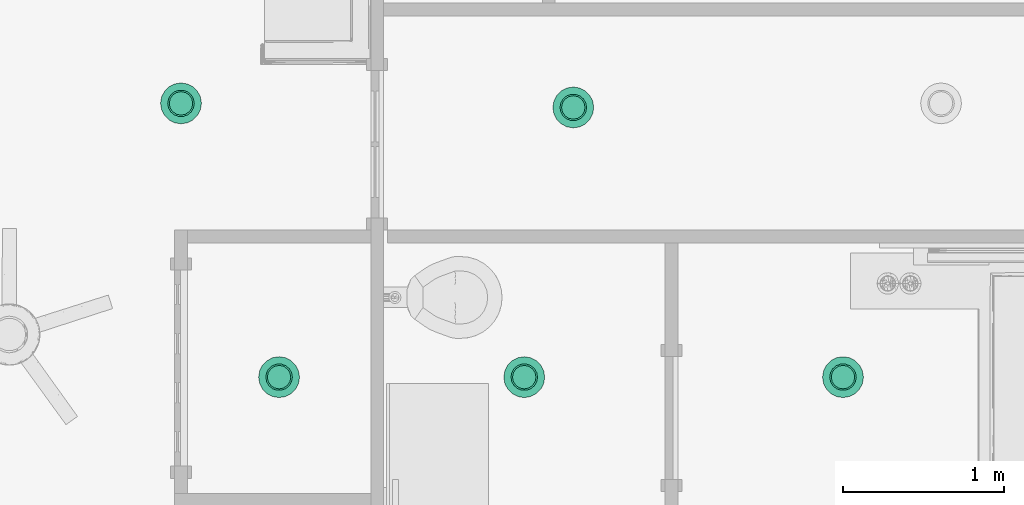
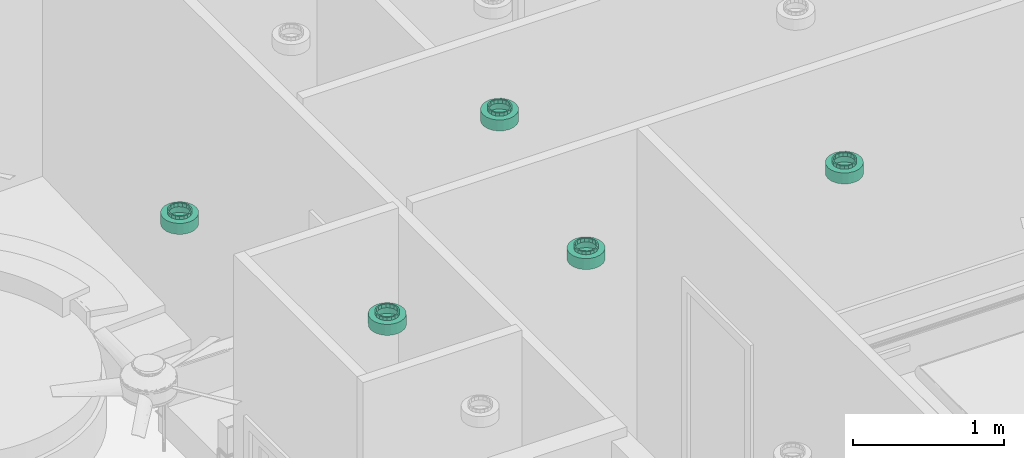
# One storey, part 13 of 28: 5 flow terminals.
"""IFC2X3 building model written with IfcOpenShell, lengths in feet."""

from ifc_helpers import new_model, entity, si_unit, converted_unit, derived_unit, direction, frame, origin, place, context, subcontext, project, spatial, faceted_brep, source, transform, mapped, material, material_list, type_object, type_shapes, element, save


model = new_model("IFC2X3")

# Units and contexts
model_context = context("Model", 3, precision=0.0001, world=origin(), true_north=direction((6.12303176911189e-17, 1.0)))
body_context = subcontext(model_context, "Body", "Model", "MODEL_VIEW")
ifc_project = project(units=[converted_unit("LENGTHUNIT", "FOOT", entity("IfcRatioMeasure", 0.3048), si_unit("LENGTHUNIT", "METRE"), dimensions=[1, 0, 0, 0, 0, 0, 0]), converted_unit("AREAUNIT", "SQUARE FOOT", entity("IfcRatioMeasure", 0.09290304), si_unit("AREAUNIT", "SQUARE_METRE"), dimensions=[2, 0, 0, 0, 0, 0, 0]), converted_unit("VOLUMEUNIT", "CUBIC FOOT", entity("IfcRatioMeasure", 0.028316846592), si_unit("VOLUMEUNIT", "CUBIC_METRE"), dimensions=[3, 0, 0, 0, 0, 0, 0]), converted_unit("PLANEANGLEUNIT", "DEGREE", entity("IfcRatioMeasure", 0.0174532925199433), si_unit("PLANEANGLEUNIT", "RADIAN"), dimensions=[0, 0, 0, 0, 0, 0, 0]), si_unit("MASSUNIT", "GRAM", prefix="KILO"), derived_unit("MASSDENSITYUNIT", [(si_unit("MASSUNIT", "GRAM", prefix="KILO"), 1), (si_unit("LENGTHUNIT", "METRE"), -3)]), si_unit("TIMEUNIT", "SECOND"), si_unit("FREQUENCYUNIT", "HERTZ"), si_unit("THERMODYNAMICTEMPERATUREUNIT", "DEGREE_CELSIUS"), derived_unit("THERMALTRANSMITTANCEUNIT", [(si_unit("MASSUNIT", "GRAM", prefix="KILO"), 1), (si_unit("THERMODYNAMICTEMPERATUREUNIT", "KELVIN"), -1), (si_unit("TIMEUNIT", "SECOND"), -3)]), derived_unit("VOLUMETRICFLOWRATEUNIT", [(si_unit("LENGTHUNIT", "METRE"), 3), (si_unit("TIMEUNIT", "SECOND"), -1)]), si_unit("ELECTRICCURRENTUNIT", "AMPERE"), si_unit("ELECTRICVOLTAGEUNIT", "VOLT"), si_unit("POWERUNIT", "WATT"), si_unit("FORCEUNIT", "NEWTON"), si_unit("ILLUMINANCEUNIT", "LUX"), si_unit("LUMINOUSFLUXUNIT", "LUMEN"), si_unit("LUMINOUSINTENSITYUNIT", "CANDELA"), derived_unit("USERDEFINED", [(si_unit("MASSUNIT", "GRAM", prefix="KILO"), -1), (si_unit("LENGTHUNIT", "METRE"), -2), (si_unit("TIMEUNIT", "SECOND"), 3), (si_unit("LUMINOUSFLUXUNIT", "LUMEN"), 1)]), derived_unit("LINEARVELOCITYUNIT", [(si_unit("LENGTHUNIT", "METRE"), 1), (si_unit("TIMEUNIT", "SECOND"), -1)]), si_unit("PRESSUREUNIT", "PASCAL"), derived_unit("USERDEFINED", [(si_unit("LENGTHUNIT", "METRE"), -2), (si_unit("MASSUNIT", "GRAM", prefix="KILO"), 1), (si_unit("TIMEUNIT", "SECOND"), -2)])], contexts=[model_context])

# Site, building, storey
site_placement = place(None, origin())
site = spatial("IfcSite", under=ifc_project, at=site_placement, Name="表面", CompositionType="ELEMENT")
building_placement = place(site_placement, origin())
building = spatial("IfcBuilding", under=site, at=building_placement, CompositionType="ELEMENT")
storey_placement = place(building_placement, frame((0.0, 0.0, 10.0)))
storey = spatial("IfcBuildingStorey", under=building, at=storey_placement, Name="Level 2", CompositionType="ELEMENT", Elevation=9.99999999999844)

# Flow terminals
ifc_material_1 = material(Name="Metal - Paint Finish - Dark Gray, Matte")
ifc_material_2 = material(Name="Glass - White, High Luminance")
ifc_material_list_1 = material_list([ifc_material_1, ifc_material_2])
ifc_material_list_2 = material_list([ifc_material_1, ifc_material_2])
light_fixture_type = type_object("IfcLightFixtureType", Name="100W - 277V", PredefinedType="NOTDEFINED", material=ifc_material_list_2)
shared_shape = source(origin(), body_context, "Body", "Brep", [
    faceted_brep([(0.557291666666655, 0.187326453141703, 0.374999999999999), (0.598651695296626, 0.245098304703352, 0.374999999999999), (0.558098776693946, 0.218001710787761, 0.374999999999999), (0.629345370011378, 0.247786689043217, 0.374999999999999), (0.517545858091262, 0.190905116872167, 0.374999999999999), (0.468904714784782, 0.155156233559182, 0.374999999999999), (0.625748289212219, 0.285651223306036, 0.374999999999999), (0.65284488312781, 0.326204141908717, 0.374999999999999), (0.676375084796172, 0.329244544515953, 0.374999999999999), (0.6623599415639, 0.374039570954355, 0.374999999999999), (0.671874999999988, 0.42187499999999, 0.374999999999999), (0.692708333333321, 0.421874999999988, 0.374999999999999), (0.676375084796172, 0.514505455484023, 0.374999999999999), (0.662359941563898, 0.469710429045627, 0.374999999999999), (0.652844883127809, 0.517545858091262, 0.374999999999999), (0.629345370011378, 0.595963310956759, 0.374999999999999), (0.625748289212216, 0.558098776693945, 0.374999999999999), (0.598651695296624, 0.598651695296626, 0.374999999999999), (0.557291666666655, 0.656423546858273, 0.374999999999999), (0.55809877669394, 0.625748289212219, 0.374999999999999), (0.517545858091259, 0.65284488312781, 0.374999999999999), (0.468904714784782, 0.688593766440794, 0.374999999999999), (0.469710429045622, 0.662359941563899, 0.374999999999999), (0.421874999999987, 0.671874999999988, 0.374999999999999), (0.374845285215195, 0.688593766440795, 0.374999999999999), (0.374039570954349, 0.662359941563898, 0.374999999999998), (0.326204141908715, 0.652844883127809, 0.374999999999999), (0.286458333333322, 0.656423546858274, 0.374999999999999), (0.285651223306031, 0.625748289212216, 0.374999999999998), (0.245098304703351, 0.598651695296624, 0.374999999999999), (0.214404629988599, 0.59596331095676, 0.374999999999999), (0.218001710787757, 0.558098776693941, 0.374999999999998), (0.190905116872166, 0.51754585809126, 0.374999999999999), (0.167374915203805, 0.514505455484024, 0.374999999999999), (0.181390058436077, 0.469710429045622, 0.374999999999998), (0.171874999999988, 0.421874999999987, 0.374999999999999), (0.151041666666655, 0.421874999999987, 0.374999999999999), (0.167374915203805, 0.329244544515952, 0.374999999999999), (0.181390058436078, 0.374039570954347, 0.374999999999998), (0.190905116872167, 0.326204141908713, 0.374999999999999), (0.214404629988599, 0.247786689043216, 0.374999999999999), (0.218001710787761, 0.28565122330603, 0.374999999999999), (0.245098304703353, 0.245098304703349, 0.374999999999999), (0.286458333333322, 0.187326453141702, 0.374999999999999), (0.285651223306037, 0.218001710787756, 0.374999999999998), (0.326204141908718, 0.190905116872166, 0.374999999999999), (0.374845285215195, 0.155156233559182, 0.374999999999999), (0.42187499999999, 0.171874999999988, 0.374999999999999), (0.374039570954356, 0.181390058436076, 0.374999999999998), (0.469710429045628, 0.181390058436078, 0.374999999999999), (0.557291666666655, 0.656423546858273, 0.291666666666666), (0.598651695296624, 0.598651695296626, 0.291666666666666), (0.55809877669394, 0.625748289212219, 0.291666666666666), (0.629345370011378, 0.595963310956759, 0.291666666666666), (0.517545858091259, 0.65284488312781, 0.291666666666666), (0.468904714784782, 0.688593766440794, 0.291666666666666), (0.625748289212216, 0.558098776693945, 0.291666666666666), (0.652844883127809, 0.517545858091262, 0.291666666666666), (0.676375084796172, 0.514505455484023, 0.291666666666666), (0.662359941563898, 0.469710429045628, 0.291666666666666), (0.671874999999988, 0.42187499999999, 0.291666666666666), (0.692708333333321, 0.421874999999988, 0.291666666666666), (0.676375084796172, 0.329244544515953, 0.291666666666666), (0.659760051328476, 0.36096904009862, 0.291666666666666), (0.65284488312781, 0.326204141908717, 0.291666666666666), (0.629345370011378, 0.247786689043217, 0.291666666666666), (0.625748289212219, 0.285651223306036, 0.291666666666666), (0.598651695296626, 0.245098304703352, 0.291666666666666), (0.557291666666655, 0.187326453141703, 0.291666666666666), (0.558098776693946, 0.218001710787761, 0.291666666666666), (0.517545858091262, 0.190905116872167, 0.291666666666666), (0.468904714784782, 0.155156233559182, 0.291666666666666), (0.469710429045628, 0.181390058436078, 0.291666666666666), (0.42187499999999, 0.171874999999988, 0.291666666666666), (0.374845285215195, 0.155156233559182, 0.291666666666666), (0.374039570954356, 0.181390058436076, 0.291666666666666), (0.326204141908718, 0.190905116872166, 0.291666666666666), (0.286458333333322, 0.187326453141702, 0.291666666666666), (0.285651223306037, 0.218001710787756, 0.291666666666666), (0.245098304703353, 0.245098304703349, 0.291666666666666), (0.214404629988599, 0.247786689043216, 0.291666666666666), (0.218001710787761, 0.28565122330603, 0.291666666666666), (0.190905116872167, 0.326204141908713, 0.291666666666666), (0.167374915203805, 0.329244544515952, 0.291666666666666), (0.181390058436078, 0.374039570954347, 0.291666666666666), (0.171874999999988, 0.421874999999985, 0.291666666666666), (0.151041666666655, 0.421874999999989, 0.291666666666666), (0.167374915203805, 0.514505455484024, 0.291666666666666), (0.183989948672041, 0.482780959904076, 0.291666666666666), (0.190905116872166, 0.51754585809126, 0.291666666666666), (0.214404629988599, 0.59596331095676, 0.291666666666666), (0.218001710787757, 0.558098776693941, 0.291666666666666), (0.245098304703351, 0.598651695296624, 0.291666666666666), (0.286458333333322, 0.656423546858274, 0.291666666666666), (0.285651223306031, 0.625748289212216, 0.291666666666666), (0.326204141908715, 0.652844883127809, 0.291666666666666), (0.374845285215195, 0.688593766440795, 0.291666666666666), (0.421874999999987, 0.671874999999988, 0.291666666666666), (0.374039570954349, 0.662359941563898, 0.291666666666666), (0.469710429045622, 0.662359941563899, 0.291666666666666)], [[[0, 1, 2]], [[1, 0, 3]], [[0, 2, 4]], [[4, 5, 0]], [[3, 6, 1]], [[3, 7, 6]], [[7, 3, 8]], [[8, 9, 7]], [[8, 10, 9]], [[10, 8, 11]], [[10, 11, 12]], [[12, 13, 10]], [[12, 14, 13]], [[15, 14, 12]], [[15, 16, 14]], [[15, 17, 16]], [[18, 17, 15]], [[18, 19, 17]], [[18, 20, 19]], [[21, 20, 18]], [[21, 22, 20]], [[21, 23, 22]], [[24, 23, 21]], [[24, 25, 23]], [[24, 26, 25]], [[27, 26, 24]], [[27, 28, 26]], [[27, 29, 28]], [[29, 27, 30]], [[30, 31, 29]], [[30, 32, 31]], [[32, 30, 33]], [[33, 34, 32]], [[33, 35, 34]], [[36, 35, 33]], [[37, 35, 36]], [[37, 38, 35]], [[37, 39, 38]], [[39, 37, 40]], [[40, 41, 39]], [[40, 42, 41]], [[42, 40, 43]], [[43, 44, 42]], [[43, 45, 44]], [[45, 43, 46]], [[47, 46, 5]], [[46, 47, 48]], [[46, 48, 45]], [[5, 4, 49]], [[5, 49, 47]], [[50, 51, 52]], [[51, 50, 53]], [[50, 52, 54]], [[54, 55, 50]], [[53, 56, 51]], [[53, 57, 56]], [[57, 53, 58]], [[58, 59, 57]], [[58, 60, 59]], [[60, 58, 61]], [[60, 61, 62]], [[62, 63, 60]], [[62, 64, 63]], [[65, 64, 62]], [[65, 66, 64]], [[65, 67, 66]], [[68, 67, 65]], [[68, 69, 67]], [[68, 70, 69]], [[71, 70, 68]], [[71, 72, 70]], [[71, 73, 72]], [[74, 73, 71]], [[74, 75, 73]], [[74, 76, 75]], [[77, 76, 74]], [[77, 78, 76]], [[77, 79, 78]], [[79, 77, 80]], [[80, 81, 79]], [[80, 82, 81]], [[82, 80, 83]], [[83, 84, 82]], [[83, 85, 84]], [[86, 85, 83]], [[87, 85, 86]], [[87, 88, 85]], [[87, 89, 88]], [[89, 87, 90]], [[90, 91, 89]], [[90, 92, 91]], [[92, 90, 93]], [[93, 94, 92]], [[93, 95, 94]], [[95, 93, 96]], [[97, 96, 55]], [[96, 97, 98]], [[96, 98, 95]], [[55, 54, 99]], [[55, 99, 97]], [[37, 36, 86, 83]], [[43, 40, 80, 77]], [[83, 80, 40, 37]], [[77, 74, 46, 43]], [[74, 71, 5, 46]], [[0, 5, 71, 68]], [[8, 3, 65, 62]], [[68, 65, 3, 0]], [[62, 61, 11, 8]], [[12, 11, 61, 58]], [[18, 15, 53, 50]], [[58, 53, 15, 12]], [[50, 55, 21, 18]], [[55, 96, 24, 21]], [[27, 24, 96, 93]], [[87, 33, 30, 90]], [[90, 30, 27, 93]], [[33, 87, 86, 36]], [[34, 35, 85, 88, 89, 32]], [[89, 91, 92, 29, 31, 32]], [[59, 60, 10, 13, 14, 57]], [[92, 94, 95, 26, 28, 29]], [[23, 25, 26, 95, 98, 97]], [[97, 99, 54, 20, 22, 23]], [[16, 17, 51, 56, 57, 14]], [[54, 52, 51, 17, 19, 20]], [[9, 10, 60, 63, 64, 7]], [[64, 66, 67, 1, 6, 7]], [[84, 85, 35, 38, 39, 82]], [[67, 69, 70, 4, 2, 1]], [[47, 49, 4, 70, 72, 73]], [[73, 75, 76, 45, 48, 47]], [[41, 42, 79, 81, 82, 39]], [[76, 78, 79, 42, 44, 45]]]),
    faceted_brep([(0.671874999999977, 0.421874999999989, 0.291666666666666), (0.838541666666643, 0.421874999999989, 0.291666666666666), (0.81814854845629, 0.550632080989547, 0.291666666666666), (0.818148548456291, 0.293117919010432, 0.291666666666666), (0.659760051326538, 0.360969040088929, 0.291666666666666), (0.662359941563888, 0.469710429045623, 0.291666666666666), (0.6528448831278, 0.326204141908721, 0.291666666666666), (0.758965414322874, 0.176964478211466, 0.291666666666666), (0.625748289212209, 0.28565122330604, 0.291666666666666), (0.598651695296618, 0.24509830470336, 0.291666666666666), (0.666785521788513, 0.084784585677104, 0.291666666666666), (0.558098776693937, 0.218001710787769, 0.291666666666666), (0.517545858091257, 0.190905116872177, 0.291666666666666), (0.550632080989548, 0.025601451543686, 0.291666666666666), (0.469710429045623, 0.181390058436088, 0.291666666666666), (0.421874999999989, 0.171874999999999, 0.291666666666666), (0.42187499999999, 0.00520833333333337, 0.291666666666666), (0.293117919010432, 0.0256014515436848, 0.291666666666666), (0.374039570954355, 0.181390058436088, 0.291666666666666), (0.326204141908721, 0.190905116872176, 0.291666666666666), (0.176964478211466, 0.0847845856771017, 0.291666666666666), (0.285651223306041, 0.218001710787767, 0.291666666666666), (0.24509830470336, 0.245098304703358, 0.291666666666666), (0.0847845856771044, 0.176964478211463, 0.291666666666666), (0.218001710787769, 0.285651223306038, 0.291666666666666), (0.190905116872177, 0.326204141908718, 0.291666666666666), (0.0256014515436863, 0.293117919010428, 0.291666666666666), (0.181390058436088, 0.374039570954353, 0.291666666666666), (0.171874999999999, 0.421874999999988, 0.291666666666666), (0.00520833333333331, 0.421874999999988, 0.291666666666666), (0.0256014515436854, 0.550632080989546, 0.291666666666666), (0.183989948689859, 0.482780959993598, 0.291666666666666), (0.190905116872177, 0.517545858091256, 0.291666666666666), (0.0847845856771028, 0.666785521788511, 0.291666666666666), (0.218001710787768, 0.558098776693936, 0.291666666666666), (0.245098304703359, 0.598651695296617, 0.291666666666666), (0.176964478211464, 0.758965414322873, 0.291666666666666), (0.285651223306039, 0.625748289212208, 0.291666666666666), (0.32620414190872, 0.652844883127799, 0.291666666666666), (0.29311791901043, 0.81814854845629, 0.291666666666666), (0.374039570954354, 0.662359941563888, 0.291666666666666), (0.421874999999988, 0.671874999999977, 0.291666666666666), (0.421874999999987, 0.838541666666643, 0.291666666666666), (0.550632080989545, 0.818148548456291, 0.291666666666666), (0.469710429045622, 0.662359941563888, 0.291666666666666), (0.517545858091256, 0.6528448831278, 0.291666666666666), (0.666785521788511, 0.758965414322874, 0.291666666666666), (0.558098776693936, 0.625748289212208, 0.291666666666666), (0.598651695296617, 0.598651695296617, 0.291666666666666), (0.758965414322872, 0.666785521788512, 0.291666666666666), (0.625748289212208, 0.558098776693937, 0.291666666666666), (0.652844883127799, 0.517545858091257, 0.291666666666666), (0.0256014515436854, 0.550632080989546, 0.0), (0.00520833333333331, 0.421874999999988, 0.0), (0.0847845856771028, 0.666785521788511, 0.0), (0.176964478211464, 0.758965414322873, 0.0), (0.29311791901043, 0.818148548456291, 0.0), (0.421874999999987, 0.838541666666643, 0.0), (0.550632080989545, 0.818148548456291, 0.0), (0.666785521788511, 0.758965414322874, 0.0), (0.758965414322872, 0.666785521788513, 0.0), (0.81814854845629, 0.550632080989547, 0.0), (0.838541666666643, 0.42187499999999, 0.0), (0.818148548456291, 0.293117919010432, 0.0), (0.666785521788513, 0.0847845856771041, 0.0), (0.550632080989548, 0.025601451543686, 0.0), (0.42187499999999, 0.00520833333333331, 0.0), (0.758965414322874, 0.176964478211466, 0.0), (0.293117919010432, 0.0256014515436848, 0.0), (0.176964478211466, 0.0847845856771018, 0.0), (0.0847845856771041, 0.176964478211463, 0.0), (0.025601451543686, 0.293117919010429, 0.0), (0.421874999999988, 0.421874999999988, 0.0), (0.808241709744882, 0.547413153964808, 0.0104166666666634), (0.421874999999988, 0.421874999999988, 0.0104166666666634), (0.828124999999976, 0.421874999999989, 0.0104166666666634), (0.7505381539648, 0.660662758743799, 0.0104166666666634), (0.660662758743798, 0.750538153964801, 0.0104166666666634), (0.547413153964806, 0.808241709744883, 0.0104166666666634), (0.421874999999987, 0.828124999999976, 0.0104166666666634), (0.296336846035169, 0.808241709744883, 0.0104166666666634), (0.183087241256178, 0.750538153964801, 0.0104166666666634), (0.0932118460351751, 0.660662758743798, 0.0104166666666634), (0.0355082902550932, 0.547413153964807, 0.0104166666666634), (0.0156249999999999, 0.421874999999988, 0.0104166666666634), (0.0355082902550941, 0.296336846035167, 0.0104166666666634), (0.0932118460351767, 0.183087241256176, 0.0104166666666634), (0.18308724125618, 0.093211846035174, 0.0104166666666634), (0.296336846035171, 0.0355082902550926, 0.0104166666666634), (0.42187499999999, 0.0156249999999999, 0.0104166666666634), (0.547413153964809, 0.0355082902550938, 0.0104166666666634), (0.6606627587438, 0.0932118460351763, 0.0104166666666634), (0.750538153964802, 0.183087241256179, 0.0104166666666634), (0.808241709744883, 0.296336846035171, 0.0104166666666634), (0.0355082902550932, 0.547413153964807, 0.281249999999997), (0.0156249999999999, 0.421874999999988, 0.281249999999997), (0.0932118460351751, 0.660662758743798, 0.281249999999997), (0.183087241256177, 0.750538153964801, 0.281249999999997), (0.296336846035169, 0.808241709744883, 0.281249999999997), (0.421874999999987, 0.828124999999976, 0.281249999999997), (0.660662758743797, 0.750538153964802, 0.281249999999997), (0.547413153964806, 0.808241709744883, 0.281249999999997), (0.808241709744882, 0.547413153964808, 0.281249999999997), (0.7505381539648, 0.660662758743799, 0.281249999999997), (0.828124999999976, 0.42187499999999, 0.281249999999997), (0.808241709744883, 0.296336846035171, 0.281249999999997), (0.547413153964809, 0.0355082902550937, 0.281249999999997), (0.6606627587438, 0.0932118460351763, 0.281249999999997), (0.42187499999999, 0.0156249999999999, 0.281249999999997), (0.750538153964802, 0.183087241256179, 0.281249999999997), (0.183087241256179, 0.0932118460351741, 0.281249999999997), (0.296336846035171, 0.0355082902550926, 0.281249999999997), (0.0355082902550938, 0.296336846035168, 0.281249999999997), (0.0932118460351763, 0.183087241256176, 0.281249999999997), (0.66145833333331, 0.421874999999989, 0.281249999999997), (0.650878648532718, 0.475062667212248, 0.281249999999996), (0.643221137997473, 0.513559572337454, 0.281249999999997), (0.650878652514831, 0.368687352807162, 0.281249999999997), (0.643221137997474, 0.330190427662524, 0.281249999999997), (0.617253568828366, 0.291327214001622, 0.281249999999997), (0.591285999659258, 0.25246400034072, 0.281249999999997), (0.552422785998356, 0.226496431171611, 0.281249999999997), (0.513559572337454, 0.200528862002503, 0.281249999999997), (0.467717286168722, 0.191410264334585, 0.281249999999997), (0.421874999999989, 0.182291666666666, 0.281249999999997), (0.376032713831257, 0.191410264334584, 0.281249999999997), (0.330190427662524, 0.200528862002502, 0.281249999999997), (0.291327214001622, 0.22649643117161, 0.281249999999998), (0.25246400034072, 0.252464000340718, 0.281249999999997), (0.226496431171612, 0.29132721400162, 0.281249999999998), (0.200528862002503, 0.330190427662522, 0.281249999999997), (0.191410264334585, 0.376032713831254, 0.281249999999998), (0.182291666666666, 0.421874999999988, 0.281249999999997), (0.192871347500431, 0.47506264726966, 0.281249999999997), (0.200528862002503, 0.513559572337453, 0.281249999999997), (0.226496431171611, 0.552422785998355, 0.281249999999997), (0.252464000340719, 0.591285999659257, 0.281249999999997), (0.291327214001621, 0.617253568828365, 0.281249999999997), (0.330190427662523, 0.643221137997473, 0.281249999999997), (0.376032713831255, 0.652339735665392, 0.281249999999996), (0.421874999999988, 0.66145833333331, 0.281249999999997), (0.46771728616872, 0.652339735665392, 0.281249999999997), (0.513559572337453, 0.643221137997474, 0.281249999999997), (0.591285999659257, 0.591285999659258, 0.281249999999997), (0.552422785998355, 0.617253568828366, 0.281249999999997), (0.617253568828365, 0.552422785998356, 0.281249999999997), (0.191410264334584, 0.467717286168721, 0.375), (0.182291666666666, 0.421874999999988, 0.375), (0.200528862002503, 0.513559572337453, 0.375), (0.252464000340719, 0.591285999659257, 0.375), (0.226496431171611, 0.552422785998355, 0.375), (0.330190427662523, 0.643221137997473, 0.375), (0.291327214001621, 0.617253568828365, 0.375), (0.421874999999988, 0.66145833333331, 0.375), (0.376032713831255, 0.652339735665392, 0.375), (0.552422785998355, 0.617253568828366, 0.375), (0.513559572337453, 0.643221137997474, 0.375), (0.591285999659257, 0.591285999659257, 0.375), (0.643221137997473, 0.513559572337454, 0.375), (0.617253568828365, 0.552422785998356, 0.375), (0.46771728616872, 0.652339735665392, 0.375), (0.652339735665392, 0.467717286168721, 0.375), (0.66145833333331, 0.421874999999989, 0.375), (0.652339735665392, 0.376032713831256, 0.375), (0.643221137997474, 0.330190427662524, 0.375), (0.591285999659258, 0.25246400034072, 0.375), (0.617253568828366, 0.291327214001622, 0.375), (0.513559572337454, 0.200528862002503, 0.375), (0.552422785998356, 0.226496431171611, 0.375), (0.421874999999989, 0.182291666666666, 0.375), (0.467717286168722, 0.191410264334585, 0.375), (0.200528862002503, 0.330190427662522, 0.375), (0.192871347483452, 0.368687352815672, 0.375), (0.25246400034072, 0.252464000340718, 0.375), (0.291327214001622, 0.22649643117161, 0.375), (0.330190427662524, 0.200528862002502, 0.375), (0.226496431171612, 0.29132721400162, 0.375), (0.376032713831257, 0.191410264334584, 0.375), (0.671874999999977, 0.421874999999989, 0.375), (0.659760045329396, 0.482780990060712, 0.375), (0.652844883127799, 0.517545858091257, 0.375), (0.662359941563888, 0.374039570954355, 0.375), (0.6528448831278, 0.326204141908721, 0.375), (0.625748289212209, 0.28565122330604, 0.375), (0.598651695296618, 0.24509830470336, 0.375), (0.558098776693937, 0.218001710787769, 0.375), (0.517545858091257, 0.190905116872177, 0.375), (0.469710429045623, 0.181390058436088, 0.375), (0.421874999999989, 0.171874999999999, 0.375), (0.374039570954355, 0.181390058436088, 0.375), (0.326204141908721, 0.190905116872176, 0.375), (0.285651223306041, 0.218001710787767, 0.375), (0.24509830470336, 0.245098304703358, 0.375), (0.218001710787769, 0.285651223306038, 0.375), (0.190905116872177, 0.326204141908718, 0.375), (0.183989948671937, 0.360969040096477, 0.375), (0.171874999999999, 0.421874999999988, 0.375), (0.181390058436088, 0.469710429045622, 0.375), (0.190905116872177, 0.517545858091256, 0.375), (0.218001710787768, 0.558098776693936, 0.375), (0.245098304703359, 0.598651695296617, 0.375), (0.285651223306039, 0.625748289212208, 0.375), (0.32620414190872, 0.652844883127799, 0.375), (0.374039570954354, 0.662359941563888, 0.375), (0.421874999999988, 0.671874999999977, 0.375), (0.469710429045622, 0.662359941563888, 0.375), (0.517545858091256, 0.6528448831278, 0.375), (0.558098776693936, 0.625748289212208, 0.375), (0.598651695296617, 0.598651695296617, 0.375), (0.625748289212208, 0.558098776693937, 0.375)], [[[0, 1, 2]], [[0, 3, 1]], [[3, 0, 4]], [[2, 5, 0]], [[3, 4, 6]], [[7, 3, 6]], [[7, 6, 8]], [[7, 8, 9]], [[10, 7, 9]], [[10, 9, 11]], [[10, 11, 12]], [[10, 12, 13]], [[13, 12, 14]], [[13, 14, 15]], [[16, 13, 15]], [[16, 15, 17]], [[17, 15, 18]], [[17, 18, 19]], [[17, 19, 20]], [[20, 19, 21]], [[20, 21, 22]], [[23, 20, 22]], [[23, 22, 24]], [[23, 24, 25]], [[25, 26, 23]], [[26, 25, 27]], [[26, 27, 28]], [[29, 26, 28]], [[30, 29, 28]], [[30, 28, 31]], [[30, 31, 32]], [[30, 32, 33]], [[33, 32, 34]], [[33, 34, 35]], [[36, 33, 35]], [[36, 35, 37]], [[36, 37, 38]], [[39, 36, 38]], [[39, 38, 40]], [[39, 40, 41]], [[42, 39, 41]], [[42, 41, 43]], [[43, 41, 44]], [[43, 44, 45]], [[46, 43, 45]], [[46, 45, 47]], [[46, 47, 48]], [[46, 48, 49]], [[49, 48, 50]], [[49, 50, 51]], [[49, 51, 2]], [[2, 51, 5]], [[52, 53, 29, 30]], [[30, 33, 54, 52]], [[36, 55, 54, 33]], [[55, 36, 39, 56]], [[56, 39, 42, 57]], [[58, 43, 46, 59]], [[60, 49, 2, 61]], [[46, 49, 60, 59]], [[61, 2, 1, 62]], [[43, 58, 57, 42]], [[1, 3, 63, 62]], [[64, 10, 13, 65]], [[16, 66, 65, 13]], [[63, 3, 7, 67]], [[10, 64, 67, 7]], [[68, 17, 20, 69]], [[70, 23, 26, 71]], [[20, 23, 70, 69]], [[71, 26, 29, 53]], [[17, 68, 66, 16]], [[62, 72, 61]], [[62, 63, 72]], [[72, 63, 67]], [[72, 67, 64]], [[72, 64, 65]], [[65, 66, 72]], [[68, 72, 66]], [[72, 68, 69]], [[72, 69, 70]], [[71, 72, 70]], [[72, 71, 53]], [[72, 53, 52]], [[72, 52, 54]], [[54, 55, 72]], [[72, 55, 56]], [[56, 57, 72]], [[72, 57, 58]], [[59, 72, 58]], [[72, 59, 60]], [[61, 72, 60]], [[73, 74, 75]], [[76, 74, 73]], [[76, 77, 74]], [[78, 74, 77]], [[78, 79, 74]], [[74, 79, 80]], [[80, 81, 74]], [[74, 81, 82]], [[82, 83, 74]], [[83, 84, 74]], [[84, 85, 74]], [[86, 74, 85]], [[86, 87, 74]], [[87, 88, 74]], [[89, 74, 88]], [[74, 89, 90]], [[90, 91, 74]], [[91, 92, 74]], [[92, 93, 74]], [[74, 93, 75]], [[94, 95, 84, 83]], [[82, 96, 94, 83]], [[96, 82, 81, 97]], [[81, 80, 98, 97]], [[98, 80, 79, 99]], [[100, 101, 78, 77]], [[102, 103, 76, 73]], [[77, 76, 103, 100]], [[104, 102, 73, 75]], [[79, 78, 101, 99]], [[105, 104, 75, 93]], [[106, 107, 91, 90]], [[108, 106, 90, 89]], [[93, 92, 109, 105]], [[109, 92, 91, 107]], [[110, 111, 88, 87]], [[112, 113, 86, 85]], [[87, 86, 113, 110]], [[95, 112, 85, 84]], [[89, 88, 111, 108]], [[102, 104, 114]], [[102, 114, 115]], [[102, 115, 116]], [[102, 116, 103]], [[104, 105, 114]], [[105, 117, 114]], [[105, 118, 117]], [[118, 105, 109]], [[109, 119, 118]], [[109, 120, 119]], [[120, 109, 107]], [[107, 121, 120]], [[107, 122, 121]], [[106, 122, 107]], [[106, 123, 122]], [[106, 124, 123]], [[124, 106, 108]], [[111, 124, 108]], [[111, 125, 124]], [[111, 126, 125]], [[110, 126, 111]], [[110, 127, 126]], [[110, 128, 127]], [[128, 110, 113]], [[113, 129, 128]], [[113, 130, 129]], [[113, 112, 130]], [[112, 131, 130]], [[112, 132, 131]], [[132, 112, 95]], [[132, 95, 94]], [[94, 133, 132]], [[94, 134, 133]], [[96, 134, 94]], [[96, 135, 134]], [[96, 136, 135]], [[136, 96, 97]], [[97, 137, 136]], [[97, 138, 137]], [[138, 97, 98]], [[98, 139, 138]], [[98, 140, 139]], [[140, 98, 99]], [[101, 140, 99]], [[101, 141, 140]], [[101, 142, 141]], [[142, 101, 100]], [[103, 143, 100]], [[100, 143, 144]], [[100, 144, 142]], [[103, 116, 145]], [[103, 145, 143]], [[146, 147, 132, 133, 134, 148]], [[136, 149, 150, 148, 134, 135]], [[136, 137, 138, 151, 152, 149]], [[151, 138, 139, 140, 153, 154]], [[155, 156, 142, 144, 143, 157]], [[116, 158, 159, 157, 143, 145]], [[153, 140, 141, 142, 156, 160]], [[161, 158, 116, 115, 114, 162]], [[163, 162, 114, 117, 118, 164]], [[120, 165, 166, 164, 118, 119]], [[120, 121, 122, 167, 168, 165]], [[123, 124, 169, 170, 167, 122]], [[171, 130, 131, 132, 147, 172]], [[128, 173, 174, 175, 126, 127]], [[128, 129, 130, 171, 176, 173]], [[175, 177, 169, 124, 125, 126]], [[162, 178, 179]], [[162, 179, 180]], [[180, 161, 162]], [[162, 181, 178]], [[162, 182, 181]], [[182, 162, 163]], [[182, 163, 164]], [[164, 183, 182]], [[164, 184, 183]], [[184, 164, 166]], [[184, 166, 165]], [[165, 185, 184]], [[165, 186, 185]], [[186, 165, 168]], [[186, 168, 167]], [[167, 187, 186]], [[167, 188, 187]], [[188, 167, 170]], [[188, 170, 169]], [[188, 169, 177]], [[188, 177, 175]], [[175, 189, 188]], [[175, 190, 189]], [[190, 175, 174]], [[190, 174, 173]], [[173, 191, 190]], [[173, 192, 191]], [[192, 173, 176]], [[192, 176, 171]], [[171, 193, 192]], [[171, 194, 193]], [[194, 171, 172]], [[194, 172, 147]], [[147, 195, 194]], [[147, 196, 195]], [[147, 197, 196]], [[147, 198, 197]], [[198, 147, 146]], [[198, 146, 148]], [[148, 199, 198]], [[148, 200, 199]], [[200, 148, 150]], [[200, 150, 149]], [[149, 201, 200]], [[149, 202, 201]], [[202, 149, 152]], [[202, 152, 151]], [[151, 203, 202]], [[151, 204, 203]], [[204, 151, 154]], [[204, 154, 153]], [[204, 153, 160]], [[204, 160, 156]], [[156, 205, 204]], [[156, 206, 205]], [[206, 156, 155]], [[206, 155, 157]], [[157, 207, 206]], [[157, 208, 207]], [[208, 157, 159]], [[208, 159, 158]], [[158, 180, 209]], [[180, 158, 161]], [[158, 209, 208]], [[198, 32, 31, 28, 196, 197]], [[199, 200, 35, 34, 32, 198]], [[200, 201, 202, 38, 37, 35]], [[40, 38, 202, 203, 204, 41]], [[47, 45, 206, 207, 208, 48]], [[178, 0, 5, 51, 180, 179]], [[208, 209, 180, 51, 50, 48]], [[45, 44, 41, 204, 205, 206]], [[182, 6, 4, 0, 178, 181]], [[183, 184, 9, 8, 6, 182]], [[184, 185, 186, 12, 11, 9]], [[187, 188, 15, 14, 12, 186]], [[195, 196, 28, 27, 25, 194]], [[191, 192, 22, 21, 19, 190]], [[192, 193, 194, 25, 24, 22]], [[19, 18, 15, 188, 189, 190]]]),
])
type_shapes(light_fixture_type, [shared_shape])
flow_terminal_1_placement = place(storey_placement, frame((-24.2901214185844, 3.34385202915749, 9.125)))
element("IfcFlowTerminal", 1, at=flow_terminal_1_placement, inside=storey, type_object=light_fixture_type, material=ifc_material_list_1, Name="Ceiling Light - Flat Round:100W - 277V", ObjectType="100W - 277V", context=body_context, shape_type="MappedRepresentation", body=[
    mapped(shared_shape, transform((0.0, 0.0, 0.0), scale=1.0)),
])
ifc_material_list_3 = material_list([ifc_material_1, ifc_material_2])
flow_terminal_2_placement = place(storey_placement, frame((-16.2901214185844, 3.26051869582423, 9.125)))
element("IfcFlowTerminal", 2, at=flow_terminal_2_placement, inside=storey, type_object=light_fixture_type, material=ifc_material_list_3, Name="Ceiling Light - Flat Round:100W - 277V", ObjectType="100W - 277V", context=body_context, shape_type="MappedRepresentation", body=[
    mapped(shared_shape, transform((0.0, 0.0, 0.0), scale=1.0)),
])
ifc_material_list_4 = material_list([ifc_material_1, ifc_material_2])
flow_terminal_3_placement = place(storey_placement, frame((-22.2901214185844, -2.23948130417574, 9.125)))
element("IfcFlowTerminal", 3, at=flow_terminal_3_placement, inside=storey, type_object=light_fixture_type, material=ifc_material_list_4, Name="Ceiling Light - Flat Round:100W - 277V", ObjectType="100W - 277V", context=body_context, shape_type="MappedRepresentation", body=[
    mapped(shared_shape, transform((0.0, 0.0, 0.0), scale=1.0)),
])
ifc_material_list_5 = material_list([ifc_material_1, ifc_material_2])
flow_terminal_4_placement = place(storey_placement, frame((-17.2901214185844, -2.23948130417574, 9.125)))
element("IfcFlowTerminal", 4, at=flow_terminal_4_placement, inside=storey, type_object=light_fixture_type, material=ifc_material_list_5, Name="Ceiling Light - Flat Round:100W - 277V", ObjectType="100W - 277V", context=body_context, shape_type="MappedRepresentation", body=[
    mapped(shared_shape, transform((0.0, 0.0, 0.0), scale=1.0)),
])
ifc_material_list_6 = material_list([ifc_material_1, ifc_material_2])
flow_terminal_5_placement = place(storey_placement, frame((-10.7901214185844, -2.23948130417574, 9.125)))
element("IfcFlowTerminal", 5, at=flow_terminal_5_placement, inside=storey, type_object=light_fixture_type, material=ifc_material_list_6, Name="Ceiling Light - Flat Round:100W - 277V", ObjectType="100W - 277V", context=body_context, shape_type="MappedRepresentation", body=[
    mapped(shared_shape, transform((0.0, 0.0, 0.0), scale=1.0)),
])

save(model, "model.ifc")
